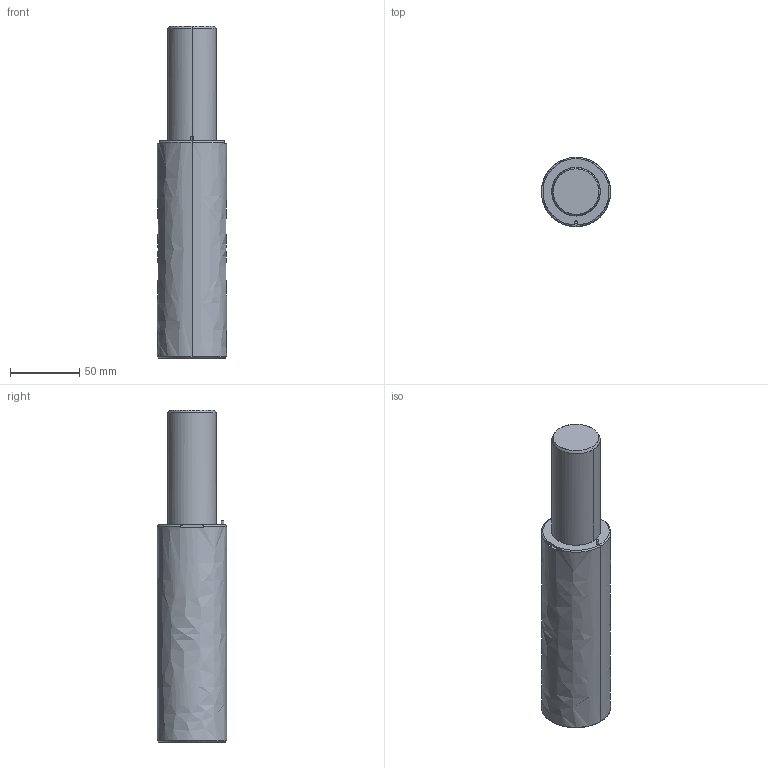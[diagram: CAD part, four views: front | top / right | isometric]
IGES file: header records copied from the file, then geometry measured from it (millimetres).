
Global section: file name: E:\UnigraphicsGraphicData\MISUMI_PRESS-PARTS\IGES\3d_gsx50-80_03963_r00.igs; native system: NX V5.0; preprocessor: UGS NX IGES V5.0; author: MISUMI; date: 20110105.160829; units: millimetre
Bounding box: 50 x 50 x 240 mm (x, y, z)
Surface area: 39183.5 mm2 (no closed solid volume)
Topology: 0 solids, 0 shells, 59 faces, 428 edges, 420 vertices
Faces by surface type: bspline 59
